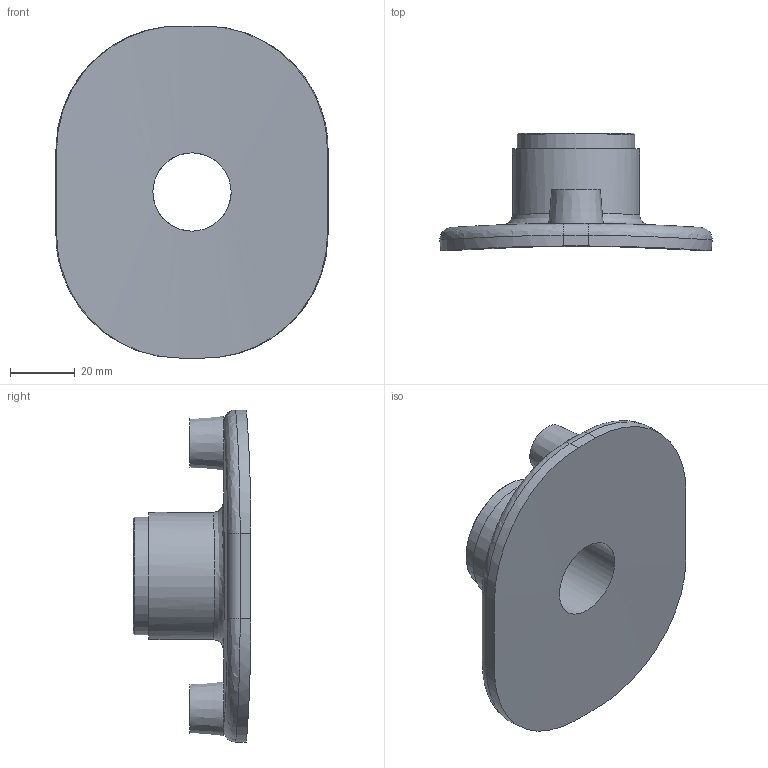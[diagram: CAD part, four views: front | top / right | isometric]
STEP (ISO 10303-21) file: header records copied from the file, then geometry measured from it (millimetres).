
FILE_DESCRIPTION(/* description */ ('PLASSON SENSOR ADAPTOR WITH STAINLESS STEEL THREAD 18''''48''''IPSx1'''''),/* implementation_level */ '2;1');
FILE_NAME(/* name */ 'C:\Dropbox\KIMPROJECTS-Inventor 2019\99-16-3568-Processing Inch\ASTM ElectroFusion 2021\5938S\5938S3900010.ipt.stp',/* time_stamp */ '2021-08-30T09:52:57+03:00',/* author */ ('Кирилл'),/* organization */ (''),/* preprocessor_version */ 'ST-DEVELOPER v17.2',/* originating_system */ 'Autodesk Inventor 2019',/* authorisation */ '');
FILE_SCHEMA (('AUTOMOTIVE_DESIGN { 1 0 10303 214 3 1 1 }'));
Length unit declared in the file: inch
Products named in the file (1): 5938S3900010
Bounding box: 84.33 x 36.5 x 102.87 mm (x, y, z)
Volume: 68432.4 mm3; surface area: 23735.4 mm2
Topology: 1 solids, 1 shells, 43 faces, 96 edges, 62 vertices
Faces by surface type: cylinder 19, plane 12, cone 5, bspline 5, torus 2
Full cylindrical faces by diameter (mm): 4 x2, 10 x2, 24.233 x1, 30.291 x1, 36.349 x1, 39.378 x1
Entity records: 1784 total; most frequent: CARTESIAN_POINT 809, ORIENTED_EDGE 194, DIRECTION 182, EDGE_CURVE 97, AXIS2_PLACEMENT_3D 77, VERTEX_POINT 63, EDGE_LOOP 52, FACE_OUTER_BOUND 43
